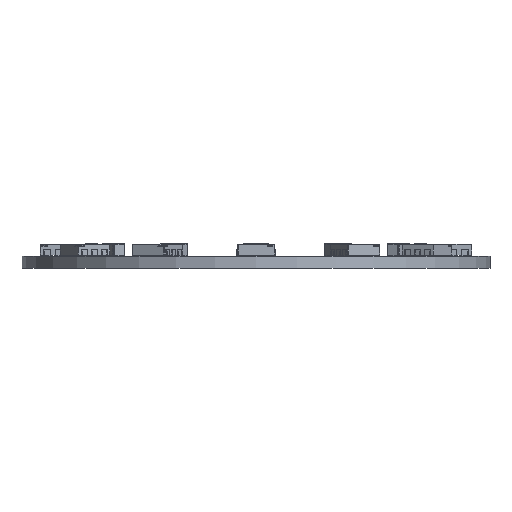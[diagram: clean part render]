
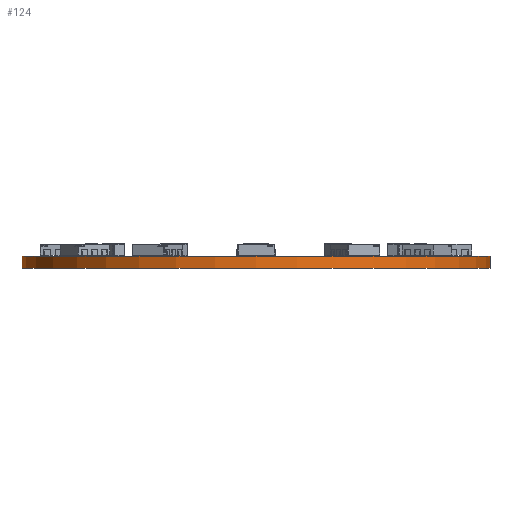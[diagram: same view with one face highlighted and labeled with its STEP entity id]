
A CAD part, front view. The second image highlights one B-rep face of the part: STEP entity #124.
In plain terms, the highlighted cylindrical face has radius 32 mm (diameter 64 mm), a full revolution.
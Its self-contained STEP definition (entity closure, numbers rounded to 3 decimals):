
#124 = ADVANCED_FACE('',(#125),#139,.T.);
#125 = FACE_BOUND('',#126,.F.);
#126 = EDGE_LOOP('',(#127,#157,#188,#189));
#127 = ORIENTED_EDGE('',*,*,#128,.T.);
#128 = EDGE_CURVE('',#129,#131,#133,.T.);
#129 = VERTEX_POINT('',#130);
#130 = CARTESIAN_POINT('',(32.,0.,0.));
#131 = VERTEX_POINT('',#132);
#132 = CARTESIAN_POINT('',(32.,0.,1.646));
#133 = SEAM_CURVE('',#134,(#138,#150),.PCURVE_S1.);
#134 = LINE('',#135,#136);
#135 = CARTESIAN_POINT('',(32.,0.,0.));
#136 = VECTOR('',#137,1.);
#137 = DIRECTION('',(0.,0.,1.));
#138 = PCURVE('',#139,#144);
#139 = CYLINDRICAL_SURFACE('',#140,32.);
#140 = AXIS2_PLACEMENT_3D('',#141,#142,#143);
#141 = CARTESIAN_POINT('',(0.,0.,0.));
#142 = DIRECTION('',(0.,0.,-1.));
#143 = DIRECTION('',(1.,0.,0.));
#144 = DEFINITIONAL_REPRESENTATION('',(#145),#149);
#145 = LINE('',#146,#147);
#146 = CARTESIAN_POINT('',(0.,0.));
#147 = VECTOR('',#148,1.);
#148 = DIRECTION('',(0.,-1.));
#149 = ( GEOMETRIC_REPRESENTATION_CONTEXT(2) 
PARAMETRIC_REPRESENTATION_CONTEXT() REPRESENTATION_CONTEXT('2D SPACE',''
  ) );
#150 = PCURVE('',#139,#151);
#151 = DEFINITIONAL_REPRESENTATION('',(#152),#156);
#152 = LINE('',#153,#154);
#153 = CARTESIAN_POINT('',(-6.283,0.));
#154 = VECTOR('',#155,1.);
#155 = DIRECTION('',(0.,-1.));
#156 = ( GEOMETRIC_REPRESENTATION_CONTEXT(2) 
PARAMETRIC_REPRESENTATION_CONTEXT() REPRESENTATION_CONTEXT('2D SPACE',''
  ) );
#157 = ORIENTED_EDGE('',*,*,#158,.T.);
#158 = EDGE_CURVE('',#131,#131,#159,.T.);
#159 = SURFACE_CURVE('',#160,(#165,#172),.PCURVE_S1.);
#160 = CIRCLE('',#161,32.);
#161 = AXIS2_PLACEMENT_3D('',#162,#163,#164);
#162 = CARTESIAN_POINT('',(0.,0.,1.646));
#163 = DIRECTION('',(0.,0.,1.));
#164 = DIRECTION('',(1.,0.,0.));
#165 = PCURVE('',#139,#166);
#166 = DEFINITIONAL_REPRESENTATION('',(#167),#171);
#167 = LINE('',#168,#169);
#168 = CARTESIAN_POINT('',(0.,-1.646));
#169 = VECTOR('',#170,1.);
#170 = DIRECTION('',(-1.,0.));
#171 = ( GEOMETRIC_REPRESENTATION_CONTEXT(2) 
PARAMETRIC_REPRESENTATION_CONTEXT() REPRESENTATION_CONTEXT('2D SPACE',''
  ) );
#172 = PCURVE('',#173,#178);
#173 = PLANE('',#174);
#174 = AXIS2_PLACEMENT_3D('',#175,#176,#177);
#175 = CARTESIAN_POINT('',(32.,0.,1.646));
#176 = DIRECTION('',(0.,0.,-1.));
#177 = DIRECTION('',(-1.,0.,0.));
#178 = DEFINITIONAL_REPRESENTATION('',(#179),#187);
#179 = ( BOUNDED_CURVE() B_SPLINE_CURVE(2,(#180,#181,#182,#183,#184,#185
,#186),.UNSPECIFIED.,.F.,.F.) B_SPLINE_CURVE_WITH_KNOTS((1,2,2,2,2,1),(
    -2.094,0.,2.094,4.189,6.283,
8.378),.UNSPECIFIED.) CURVE() GEOMETRIC_REPRESENTATION_ITEM() 
RATIONAL_B_SPLINE_CURVE((1.,0.5,1.,0.5,1.,0.5,1.)) REPRESENTATION_ITEM(
  '') );
#180 = CARTESIAN_POINT('',(0.,0.));
#181 = CARTESIAN_POINT('',(0.,55.426));
#182 = CARTESIAN_POINT('',(48.,27.713));
#183 = CARTESIAN_POINT('',(96.,0.));
#184 = CARTESIAN_POINT('',(48.,-27.713));
#185 = CARTESIAN_POINT('',(0.,-55.426));
#186 = CARTESIAN_POINT('',(0.,0.));
#187 = ( GEOMETRIC_REPRESENTATION_CONTEXT(2) 
PARAMETRIC_REPRESENTATION_CONTEXT() REPRESENTATION_CONTEXT('2D SPACE',''
  ) );
#188 = ORIENTED_EDGE('',*,*,#128,.F.);
#189 = ORIENTED_EDGE('',*,*,#190,.F.);
#190 = EDGE_CURVE('',#129,#129,#191,.T.);
#191 = SURFACE_CURVE('',#192,(#197,#204),.PCURVE_S1.);
#192 = CIRCLE('',#193,32.);
#193 = AXIS2_PLACEMENT_3D('',#194,#195,#196);
#194 = CARTESIAN_POINT('',(0.,0.,0.));
#195 = DIRECTION('',(0.,0.,1.));
#196 = DIRECTION('',(1.,0.,0.));
#197 = PCURVE('',#139,#198);
#198 = DEFINITIONAL_REPRESENTATION('',(#199),#203);
#199 = LINE('',#200,#201);
#200 = CARTESIAN_POINT('',(0.,0.));
#201 = VECTOR('',#202,1.);
#202 = DIRECTION('',(-1.,0.));
#203 = ( GEOMETRIC_REPRESENTATION_CONTEXT(2) 
PARAMETRIC_REPRESENTATION_CONTEXT() REPRESENTATION_CONTEXT('2D SPACE',''
  ) );
#204 = PCURVE('',#205,#210);
#205 = PLANE('',#206);
#206 = AXIS2_PLACEMENT_3D('',#207,#208,#209);
#207 = CARTESIAN_POINT('',(32.,0.,0.));
#208 = DIRECTION('',(0.,0.,-1.));
#209 = DIRECTION('',(-1.,0.,0.));
#210 = DEFINITIONAL_REPRESENTATION('',(#211),#219);
#211 = ( BOUNDED_CURVE() B_SPLINE_CURVE(2,(#212,#213,#214,#215,#216,#217
,#218),.UNSPECIFIED.,.F.,.F.) B_SPLINE_CURVE_WITH_KNOTS((1,2,2,2,2,1),(
    -2.094,0.,2.094,4.189,6.283,
8.378),.UNSPECIFIED.) CURVE() GEOMETRIC_REPRESENTATION_ITEM() 
RATIONAL_B_SPLINE_CURVE((1.,0.5,1.,0.5,1.,0.5,1.)) REPRESENTATION_ITEM(
  '') );
#212 = CARTESIAN_POINT('',(0.,0.));
#213 = CARTESIAN_POINT('',(0.,55.426));
#214 = CARTESIAN_POINT('',(48.,27.713));
#215 = CARTESIAN_POINT('',(96.,0.));
#216 = CARTESIAN_POINT('',(48.,-27.713));
#217 = CARTESIAN_POINT('',(0.,-55.426));
#218 = CARTESIAN_POINT('',(0.,0.));
#219 = ( GEOMETRIC_REPRESENTATION_CONTEXT(2) 
PARAMETRIC_REPRESENTATION_CONTEXT() REPRESENTATION_CONTEXT('2D SPACE',''
  ) );
